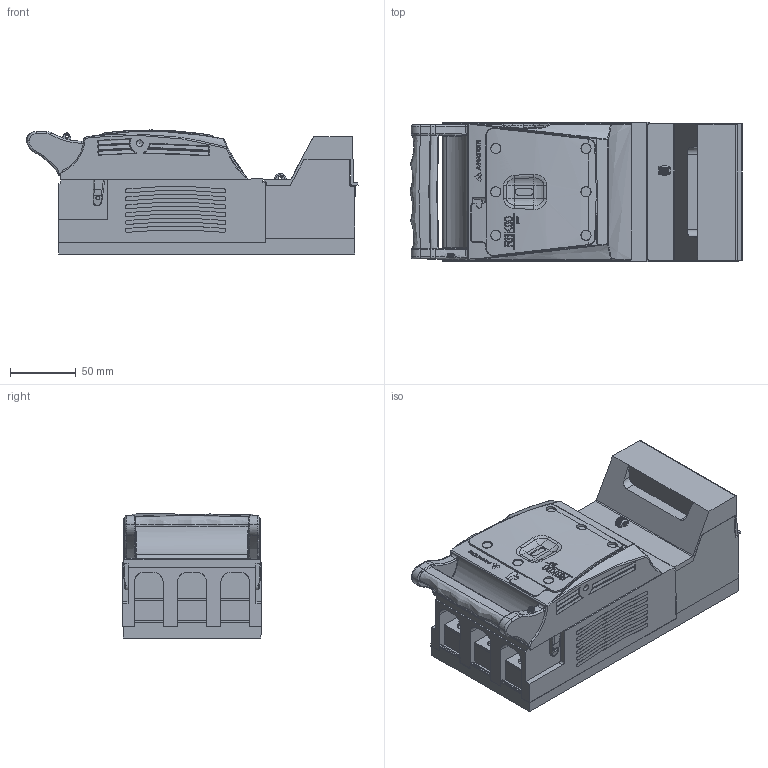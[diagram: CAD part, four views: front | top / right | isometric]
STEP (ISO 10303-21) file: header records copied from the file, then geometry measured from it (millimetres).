
FILE_DESCRIPTION(/* description */ (''),/* implementation_level */ '2;1');
FILE_NAME(/* name */ 'RBK 00 pro-V120 - 63-823341-011.stp',/* time_stamp */ '2019-10-17T15:35:13+02:00',/* author */ (''),/* organization */ (''),/* preprocessor_version */ 'ST-DEVELOPER v16',/* originating_system */ 'SIEMENS PLM Software NX 10.0',/* authorisation */ '');
FILE_SCHEMA (('AUTOMOTIVE_DESIGN { 1 0 10303 214 3 1 1 1 }'));
Length unit declared in the file: millimetre
Products named in the file (1): 710_38208590imaf
Bounding box: 252.35 x 106 x 94.27 mm (x, y, z)
Volume: 1473395.6 mm3; surface area: 196990 mm2
Topology: 1 solids, 5 shells, 2969 faces, 7866 edges, 4975 vertices
Faces by surface type: plane 1717, cone 382, cylinder 378, bspline 320, torus 67, extrusion 62, sphere 37, revolution 6
Full cylindrical faces by diameter (mm): 2.2 x1, 5.2 x4, 6.6 x1, 6.9 x3
Entity records: 122380 total; most frequent: CARTESIAN_POINT 36716, ORIENTED_EDGE 15528, DIRECTION 14584, EDGE_CURVE 7764, AXIS2_PLACEMENT_3D 5207, VERTEX_POINT 4950, VECTOR 4164, LINE 4102
